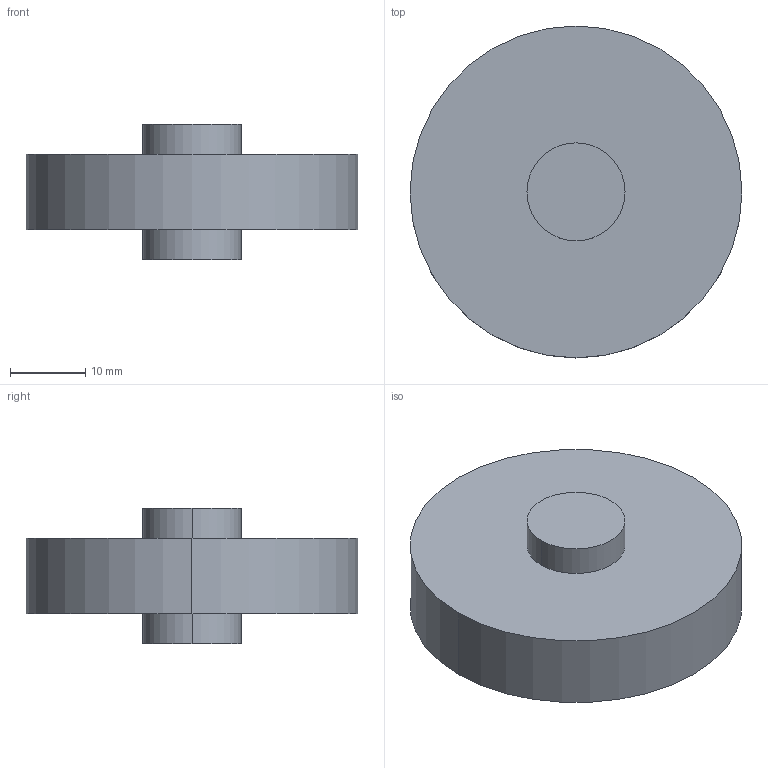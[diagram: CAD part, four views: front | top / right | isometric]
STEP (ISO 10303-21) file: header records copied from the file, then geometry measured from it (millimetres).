
FILE_DESCRIPTION (( 'STEP AP203' ), '1' );
FILE_NAME ('support_wheel.STEP', '2019-07-18T16:12:07', ( '' ), ( '' ), 'SwSTEP 2.0', 'SolidWorks 2017', '' );
FILE_SCHEMA (( 'CONFIG_CONTROL_DESIGN' ));
Length unit declared in the file: millimetre
Products named in the file (1): support_wheel
Bounding box: 44 x 44 x 18 mm (x, y, z)
Volume: 16267.2 mm3; surface area: 4750.1 mm2
Topology: 1 solids, 1 shells, 10 faces, 18 edges, 12 vertices
Faces by surface type: cylinder 6, plane 4
Entity records: 331 total; most frequent: DIRECTION 52, CARTESIAN_POINT 41, ORIENTED_EDGE 36, AXIS2_PLACEMENT_3D 23, EDGE_CURVE 18, CIRCLE 12, VERTEX_POINT 12, EDGE_LOOP 12
